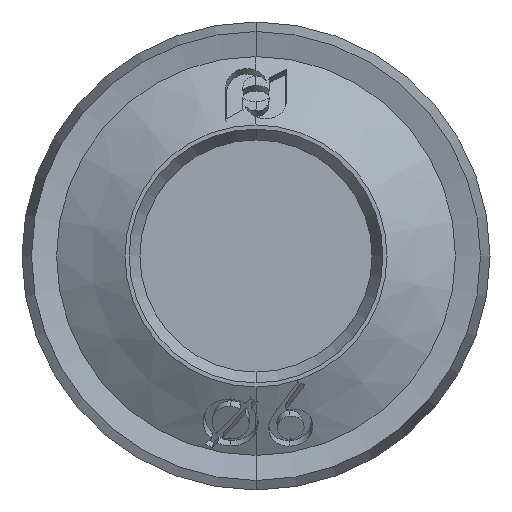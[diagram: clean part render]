
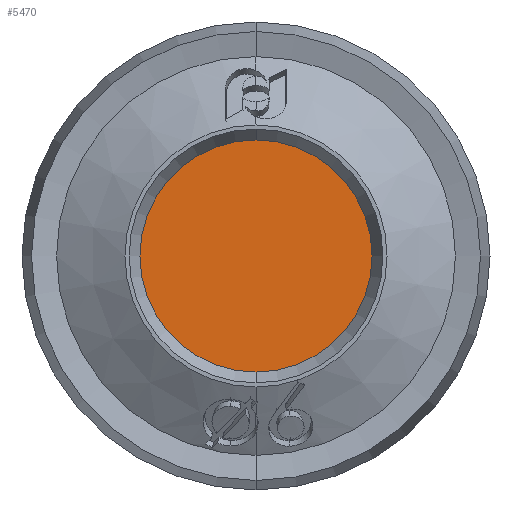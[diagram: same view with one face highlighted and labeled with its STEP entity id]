
A CAD part, front view. The second image highlights one B-rep face of the part: STEP entity #5470.
In plain terms, the highlighted planar face has unit normal (0, -1, 0).
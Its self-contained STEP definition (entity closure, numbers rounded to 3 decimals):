
#2238 = VERTEX_POINT ( 'NONE', #9709 ) ;
#2239 = VERTEX_POINT ( 'NONE', #9710 ) ;
#4826 = AXIS2_PLACEMENT_3D ( 'NONE', #7250, #7251, #7252 ) ;
#5470 = ADVANCED_FACE ( 'NONE', ( #13603 ), #7231, .T. ) ;
#5919 = EDGE_LOOP ( 'NONE', ( #10604, #10605 ) ) ;
#7231 = PLANE ( 'NONE',  #4826 ) ;
#7250 = CARTESIAN_POINT ( 'NONE',  ( 0., 2.6, 0. ) ) ;
#7251 = DIRECTION ( 'NONE',  ( 0., -1., 0. ) ) ;
#7252 = DIRECTION ( 'NONE',  ( 1., 0., 0. ) ) ;
#9709 = CARTESIAN_POINT ( 'NONE',  ( 0., 2.6, 3.1 ) ) ;
#9710 = CARTESIAN_POINT ( 'NONE',  ( 0., 2.6, -3.1 ) ) ;
#10236 = CARTESIAN_POINT ( 'NONE',  ( 0., 2.6, 0. ) ) ;
#10237 = DIRECTION ( 'NONE',  ( 0., -1., 0. ) ) ;
#10238 = DIRECTION ( 'NONE',  ( 0., 0., 1. ) ) ;
#10604 = ORIENTED_EDGE ( 'NONE', *, *, #11553, .T. ) ;
#10605 = ORIENTED_EDGE ( 'NONE', *, *, #11471, .T. ) ;
#11471 = EDGE_CURVE ( 'NONE', #2239, #2238, #13739, .T. ) ;
#11553 = EDGE_CURVE ( 'NONE', #2238, #2239, #13785, .T. ) ;
#12620 = CARTESIAN_POINT ( 'NONE',  ( 0., 2.6, 0. ) ) ;
#12621 = DIRECTION ( 'NONE',  ( 0., -1., 0. ) ) ;
#12622 = DIRECTION ( 'NONE',  ( 0., 0., 1. ) ) ;
#13603 = FACE_OUTER_BOUND ( 'NONE', #5919, .T. ) ;
#13739 = CIRCLE ( 'NONE', #14167, 3.1 ) ;
#13785 = CIRCLE ( 'NONE', #14189, 3.1 ) ;
#14167 = AXIS2_PLACEMENT_3D ( 'NONE', #12620, #12621, #12622 ) ;
#14189 = AXIS2_PLACEMENT_3D ( 'NONE', #10236, #10237, #10238 ) ;
